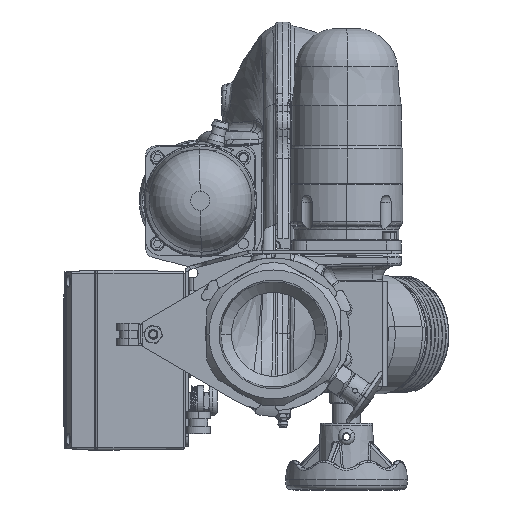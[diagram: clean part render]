
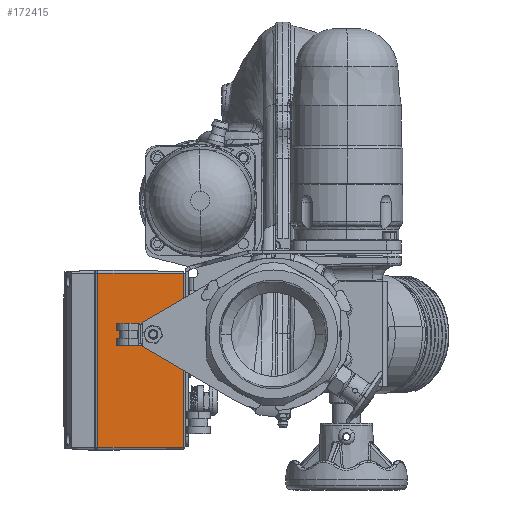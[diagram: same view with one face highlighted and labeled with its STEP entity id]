
A CAD part, front view. The second image highlights one B-rep face of the part: STEP entity #172415.
In plain terms, the highlighted planar face has unit normal (0.014, -1, 0).
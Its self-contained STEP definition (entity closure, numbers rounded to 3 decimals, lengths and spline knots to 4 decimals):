
#2054 = LINE ( 'NONE', #140499, #27682 ) ;
#9587 = LINE ( 'NONE', #106967, #33099 ) ;
#23236 = DIRECTION ( 'NONE',  ( -1., -0.014, 0. ) ) ;
#25642 = DIRECTION ( 'NONE',  ( 0.014, -1., 0. ) ) ;
#27682 = VECTOR ( 'NONE', #84918, 39.3701 ) ;
#33099 = VECTOR ( 'NONE', #36999, 39.3701 ) ;
#35428 = ORIENTED_EDGE ( 'NONE', *, *, #105926, .F. ) ;
#36999 = DIRECTION ( 'NONE',  ( 0., 0., -1. ) ) ;
#40830 = VECTOR ( 'NONE', #47774, 39.3701 ) ;
#41732 = CARTESIAN_POINT ( 'NONE',  ( -2.6018, -0.917, -2.9568 ) ) ;
#43920 = ORIENTED_EDGE ( 'NONE', *, *, #135506, .T. ) ;
#45084 = FACE_OUTER_BOUND ( 'NONE', #78804, .T. ) ;
#46022 = CARTESIAN_POINT ( 'NONE',  ( -4.9186, -0.9493, -2.9568 ) ) ;
#47774 = DIRECTION ( 'NONE',  ( -1., -0.014, 0. ) ) ;
#59152 = ORIENTED_EDGE ( 'NONE', *, *, #101566, .T. ) ;
#74828 = VERTEX_POINT ( 'NONE', #41732 ) ;
#78804 = EDGE_LOOP ( 'NONE', ( #35428, #84857, #43920, #59152 ) ) ;
#81313 = PLANE ( 'NONE',  #141750 ) ;
#81985 = LINE ( 'NONE', #147056, #138982 ) ;
#84857 = ORIENTED_EDGE ( 'NONE', *, *, #141440, .T. ) ;
#84918 = DIRECTION ( 'NONE',  ( 0., 0., 1. ) ) ;
#98248 = VERTEX_POINT ( 'NONE', #160214 ) ;
#101566 = EDGE_CURVE ( 'NONE', #139245, #156967, #9587, .T. ) ;
#101836 = CARTESIAN_POINT ( 'NONE',  ( -4.8476, -0.9483, -2.9568 ) ) ;
#105926 = EDGE_CURVE ( 'NONE', #74828, #156967, #137109, .T. ) ;
#106967 = CARTESIAN_POINT ( 'NONE',  ( -4.8476, -0.9483, -2.9568 ) ) ;
#121340 = DIRECTION ( 'NONE',  ( 1., 0.014, 0. ) ) ;
#135506 = EDGE_CURVE ( 'NONE', #98248, #139245, #81985, .T. ) ;
#135623 = CARTESIAN_POINT ( 'NONE',  ( -4.8476, -0.9483, 1.6032 ) ) ;
#137109 = LINE ( 'NONE', #46022, #40830 ) ;
#138982 = VECTOR ( 'NONE', #23236, 39.3701 ) ;
#139245 = VERTEX_POINT ( 'NONE', #135623 ) ;
#140499 = CARTESIAN_POINT ( 'NONE',  ( -2.6018, -0.917, 1.6032 ) ) ;
#141440 = EDGE_CURVE ( 'NONE', #74828, #98248, #2054, .T. ) ;
#141750 = AXIS2_PLACEMENT_3D ( 'NONE', #162056, #25642, #121340 ) ;
#147056 = CARTESIAN_POINT ( 'NONE',  ( -4.9186, -0.9493, 1.6032 ) ) ;
#156967 = VERTEX_POINT ( 'NONE', #101836 ) ;
#160214 = CARTESIAN_POINT ( 'NONE',  ( -2.6018, -0.917, 1.6032 ) ) ;
#162056 = CARTESIAN_POINT ( 'NONE',  ( -4.9186, -0.9493, -2.9568 ) ) ;
#172415 = ADVANCED_FACE ( 'NONE', ( #45084 ), #81313, .T. ) ;
